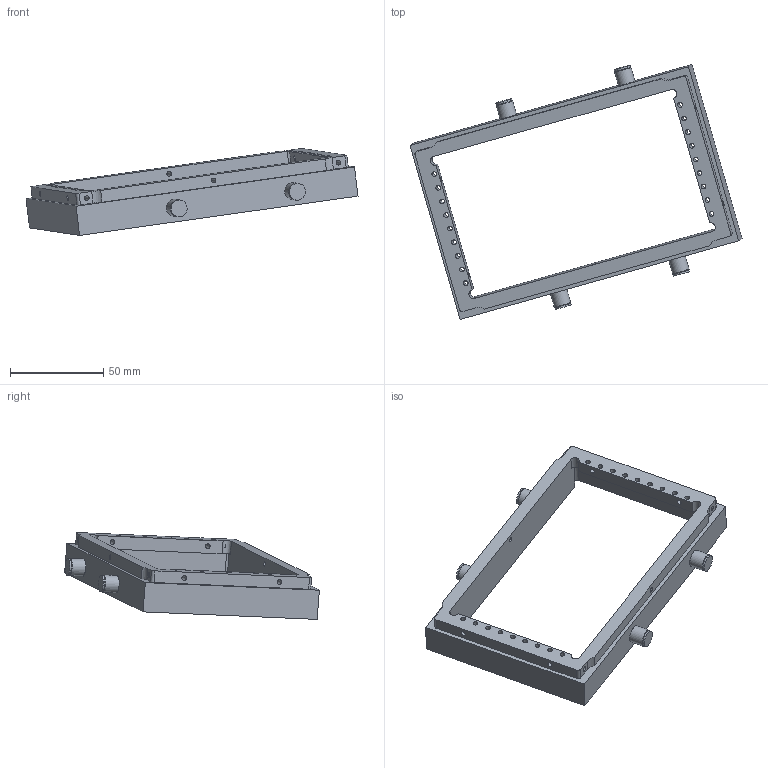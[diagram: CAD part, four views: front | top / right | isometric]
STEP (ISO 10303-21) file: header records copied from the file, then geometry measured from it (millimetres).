
FILE_DESCRIPTION((''),'2;1');
FILE_NAME('C:\old_Drawings\shrinkwrapped website .stp files\561452-STP.stp','2011-06-06T11:26:37',('GaryRobinson'),(''),'Autodesk Inventor 2011','Autodesk Inventor 2011','');
FILE_SCHEMA(('CONFIG_CONTROL_DESIGN'));
Length unit declared in the file: inch
Products named in the file (1): 561452-STP
Bounding box: 178.39 x 136.9 x 46.67 mm (x, y, z)
Surface area: 35245.5 mm2 (no closed solid volume)
Topology: 0 solids, 9 shells, 127 faces, 303 edges, 203 vertices
Faces by surface type: cylinder 60, plane 47, cone 20
Full cylindrical faces by diameter (mm): 2.54 x28, 6.353 x4, 6.985 x4, 9 x4, 9.144 x4
Entity records: 3451 total; most frequent: DIRECTION 604, CARTESIAN_POINT 516, ORIENTED_EDGE 424, AXIS2_PLACEMENT_3D 264, EDGE_LOOP 250, EDGE_CURVE 212, VERTEX_POINT 176, CIRCLE 136
